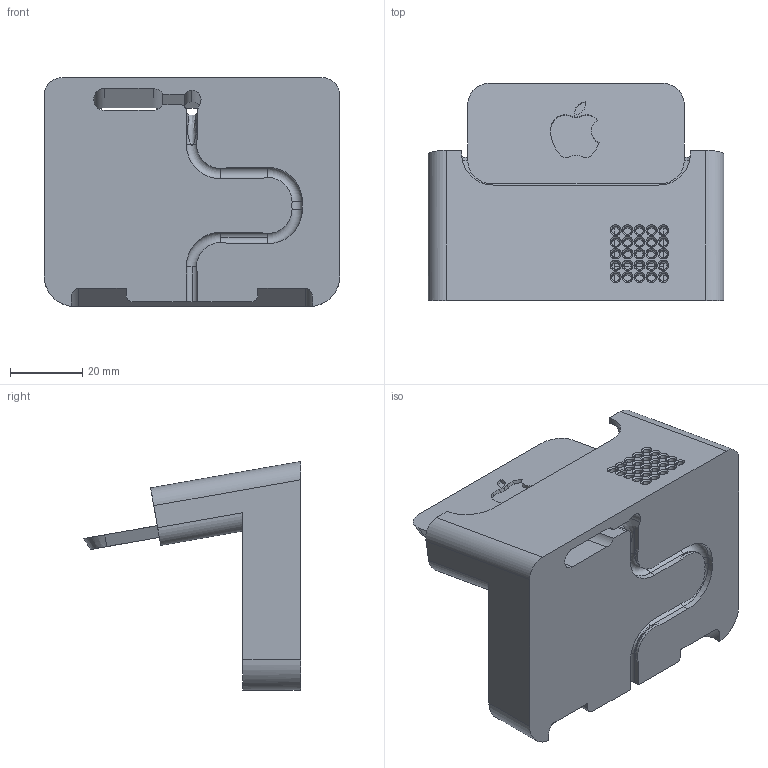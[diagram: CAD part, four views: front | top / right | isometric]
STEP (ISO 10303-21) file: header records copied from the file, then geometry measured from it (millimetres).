
FILE_DESCRIPTION (( 'STEP AP203' ), '1' );
FILE_NAME ('iPhone_6s_stand.STEP', '2016-11-04T12:06:33', ( '' ), ( '' ), 'SwSTEP 2.0', 'SolidWorks 2015', '' );
FILE_SCHEMA (( 'CONFIG_CONTROL_DESIGN' ));
Length unit declared in the file: millimetre
Products named in the file (1): iPhone_6s_stand
Bounding box: 82 x 60.2 x 63.47 mm (x, y, z)
Volume: 72481.9 mm3; surface area: 27642.1 mm2
Topology: 1 solids, 1 shells, 308 faces, 806 edges, 486 vertices
Faces by surface type: cylinder 123, cone 108, plane 61, torus 12, bspline 4
Entity records: 14997 total; most frequent: CARTESIAN_POINT 7171, DIRECTION 1709, ORIENTED_EDGE 1610, EDGE_CURVE 805, AXIS2_PLACEMENT_3D 669, VERTEX_POINT 486, LINE 371, VECTOR 371
